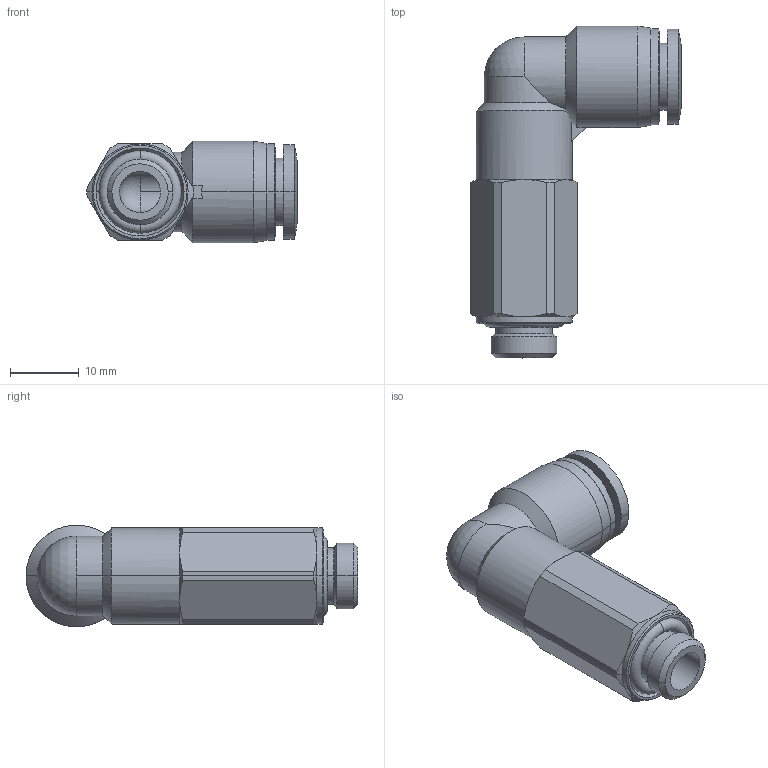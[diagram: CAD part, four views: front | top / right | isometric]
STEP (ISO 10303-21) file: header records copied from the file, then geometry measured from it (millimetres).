
FILE_DESCRIPTION (( 'STEP AP203' ), '1' );
FILE_NAME ('FLL08-01.STEP', '2020-05-13T11:09:26', ( '' ), ( '' ), 'SwSTEP 2.0', 'SolidWorks 2019', '' );
FILE_SCHEMA (( 'CONFIG_CONTROL_DESIGN' ));
Length unit declared in the file: millimetre
Products named in the file (1): FLL08-01
Bounding box: 30.65 x 48.4 x 14.79 mm (x, y, z)
Surface area: 4719 mm2 (no closed solid volume)
Topology: 0 solids, 4 shells, 93 faces, 223 edges, 138 vertices
Faces by surface type: cylinder 35, cone 32, plane 18, torus 4, bspline 2, sphere 2
Entity records: 4389 total; most frequent: CARTESIAN_POINT 2535, ORIENTED_EDGE 428, DIRECTION 237, EDGE_CURVE 222, B_SPLINE_CURVE_WITH_KNOTS 167, VERTEX_POINT 138, EDGE_LOOP 102, AXIS2_PLACEMENT_3D 96
